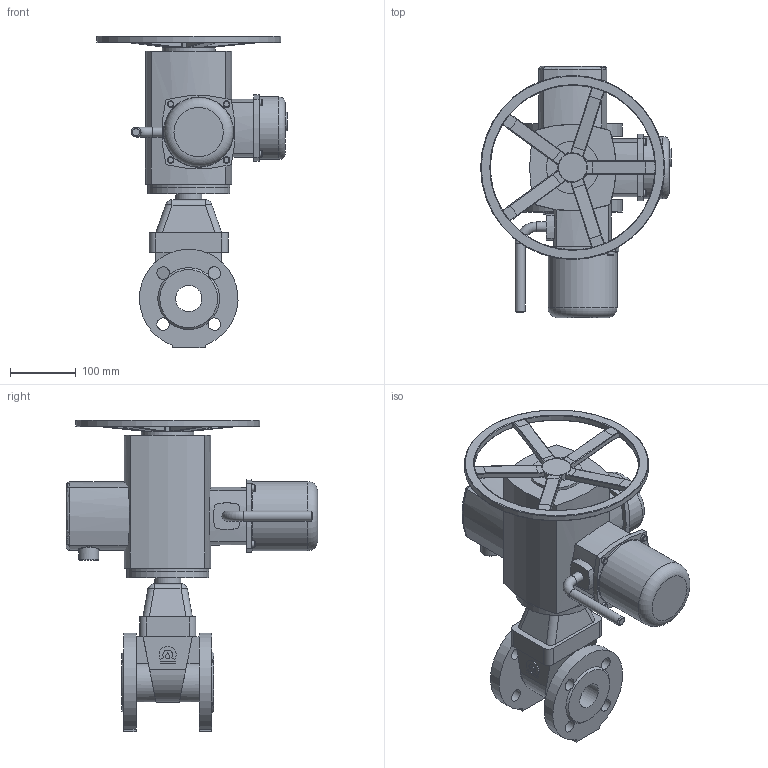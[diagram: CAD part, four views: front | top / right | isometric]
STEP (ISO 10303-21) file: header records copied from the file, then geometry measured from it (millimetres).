
FILE_DESCRIPTION(('STEP AP203'), '1');
FILE_NAME('青溻桄赅 47GVA DN40 PN10_PN16+MT903.Z05', '', ('UNSPECIFIED'), ('UNSPECIFIED'), 'ASCON STEP Converter 1.6', 'ASCON Math Kernel', '');
FILE_SCHEMA(('CONFIG_CONTROL_DESIGN'));
Length unit declared in the file: millimetre
Bounding box: 290 x 382 x 474 mm (x, y, z)
Volume: 8191523.4 mm3; surface area: 544376.2 mm2
Topology: 2 solids, 2 shells, 383 faces, 926 edges, 565 vertices
Faces by surface type: cylinder 182, plane 163, torus 25, cone 7, bspline 6
Full cylindrical faces by diameter (mm): 8.376 x4, 10 x8, 12 x4, 15 x2, 18 x1, 19 x8, 24 x1, 28 x2, 29.22 x1, 30 x1, 40 x2, 70 x2, 80 x1, 95 x1, 105 x1, 125 x2, 280 x1
Entity records: 18931 total; most frequent: CARTESIAN_POINT 7604, ORIENTED_EDGE 1688, DIRECTION 1621, EDGE_CURVE 844, AXIS2_PLACEMENT_3D 639, VERTEX_POINT 559, EDGE_LOOP 513, FACE_BOUND 387
